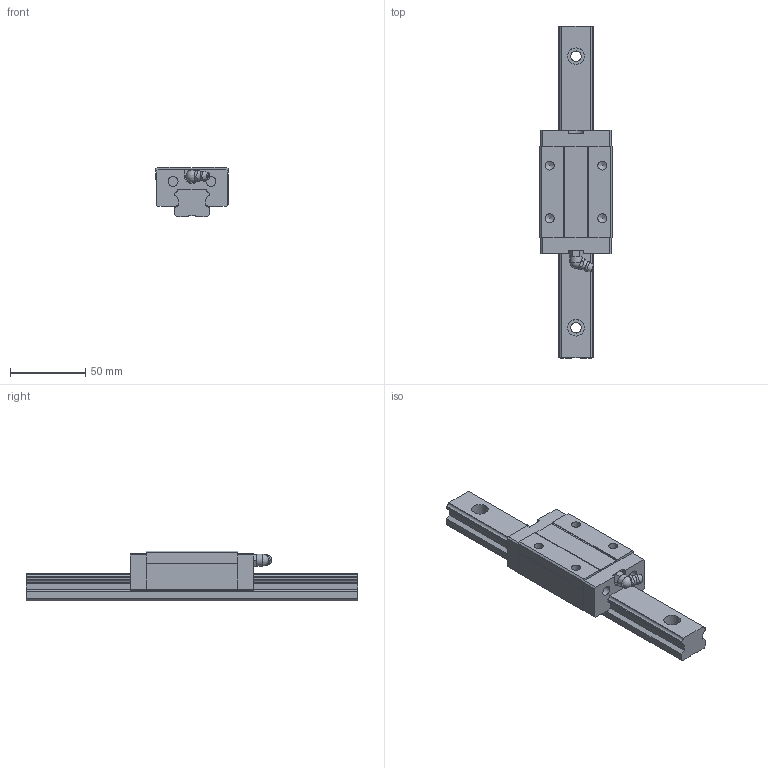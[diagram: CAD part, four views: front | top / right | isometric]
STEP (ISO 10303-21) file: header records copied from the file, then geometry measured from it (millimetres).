
FILE_DESCRIPTION(/* description */ (''),/* implementation_level */ '2;1');
FILE_NAME(/* name */ 'MSB25S',/* time_stamp */ '2004-05-24T09:46:09+08:00',/* author */ (''),/* organization */ (''),/* preprocessor_version */ 'ST-DEVELOPER v8',/* originating_system */ '',/* authorisation */ '');
FILE_SCHEMA (('CONFIG_CONTROL_DESIGN'));
Length unit declared in the file: millimetre
Products named in the file (1): zirc812C000w
Bounding box: 48 x 220 x 33 mm (x, y, z)
Volume: 154504.4 mm3; surface area: 39453.5 mm2
Topology: 3 solids, 3 shells, 169 faces, 459 edges, 302 vertices
Faces by surface type: plane 123, cylinder 31, torus 7, cone 5, sphere 2, bspline 1
Full cylindrical faces by diameter (mm): 6 x4, 6.5 x6, 7 x4, 8 x1, 11 x4
Entity records: 5241 total; most frequent: CARTESIAN_POINT 1008, DIRECTION 844, ORIENTED_EDGE 834, EDGE_CURVE 417, VERTEX_POINT 292, LINE 292, VECTOR 292, AXIS2_PLACEMENT_3D 276
